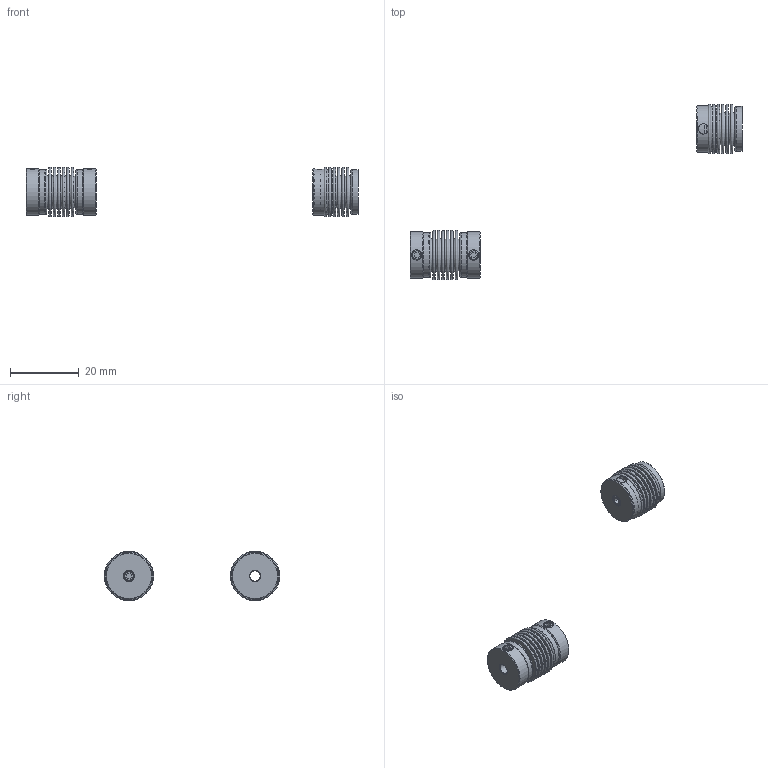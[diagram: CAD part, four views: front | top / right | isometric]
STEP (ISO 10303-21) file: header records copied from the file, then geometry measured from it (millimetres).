
FILE_DESCRIPTION( ( 'Unknown' ), '1' );
FILE_NAME( 'C:/Dokumente und Einstellungen/Sven/Desktop/cad - homepage/KB1/KB1-10-21.stp', 'Unknown', ( 'Unknown' ), ( 'Unknown' ), 'XStep 1.0', 'Unknown', ' ' );
FILE_SCHEMA( ( 'automotive_design' ) );
Length unit declared in the file: millimetre
Products named in the file (4): Assem1; BK10_Standard; MN10_Standard; Socket Set Screw Cup Point_DIN_DIN 916 - M3 x 4-N_0
Bounding box: 96.83 x 51.17 x 14.39 mm (x, y, z)
Volume: 2628.7 mm3; surface area: 8352.1 mm2
Topology: 8 solids, 8 shells, 194 faces, 368 edges, 240 vertices
Faces by surface type: plane 90, torus 60, cylinder 23, cone 21
Full cylindrical faces by diameter (mm): 3 x9, 12.9 x7, 13.1 x4, 13.5 x3
Entity records: 2041 total; most frequent: DIRECTION 360, CARTESIAN_POINT 332, ORIENTED_EDGE 196, AXIS2_PLACEMENT_3D 171, EDGE_LOOP 166, FACE_OUTER_BOUND 125, EDGE_CURVE 98, VERTEX_POINT 93
